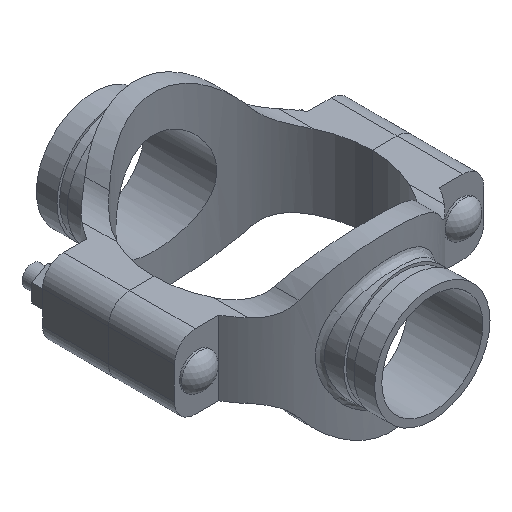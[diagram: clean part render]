
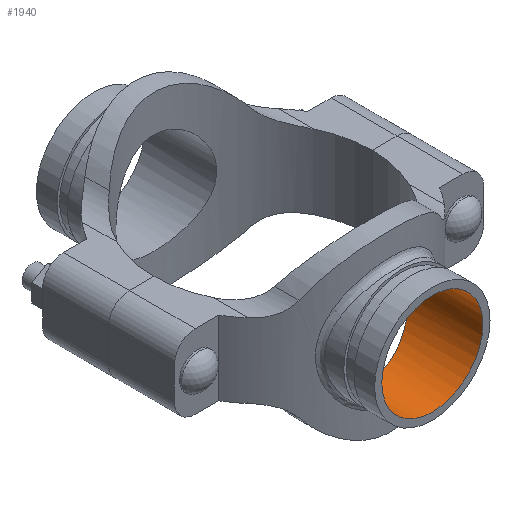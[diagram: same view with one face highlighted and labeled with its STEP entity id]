
A CAD part, isometric view. The second image highlights one B-rep face of the part: STEP entity #1940.
In plain terms, the highlighted cylindrical face has radius 38.894 mm (diameter 77.787 mm), a full revolution.
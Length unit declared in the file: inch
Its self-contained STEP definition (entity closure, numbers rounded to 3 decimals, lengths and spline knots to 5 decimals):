
#48=B_SPLINE_CURVE_WITH_KNOTS('',3,(#3908,#3909,#3910,#3911,#3912,#3913,
#3914,#3915,#3916,#3917,#3918,#3919,#3920,#3921,#3922,#3923,#3924,#3925,
#3926,#3927,#3928,#3929,#3930,#3931,#3932,#3933,#3934,#3935,#3936,#3937,
#3938,#3939,#3940,#3941,#3942,#3943,#3944,#3945,#3946,#3947,#3948,#3949,
#3950,#3951,#3952,#3953,#3954,#3955,#3956,#3957,#3958,#3959,#3960,#3961,
#3962,#3963,#3964,#3965,#3966,#3967,#3968,#3969,#3970,#3971,#3972,#3973),
 .UNSPECIFIED.,.T.,.F.,(4,2,2,2,2,2,2,2,2,2,2,2,2,2,2,2,2,2,2,2,2,2,2,2,
2,2,2,2,2,2,2,2,4),(0.,0.74578,1.49156,2.23734,
2.98312,3.72747,4.47183,5.21618,5.96054,
6.70489,7.44924,8.1936,8.93795,9.68373,
10.42951,11.17529,11.92107,12.66685,13.41263,
14.15841,14.90419,15.64855,16.3929,17.13726,
17.88161,18.62596,19.37032,20.11467,20.85903,
21.60481,22.35059,23.09637,23.84215),
 .UNSPECIFIED.);
#91=CYLINDRICAL_SURFACE('',#2173,1.53125);
#206=FACE_OUTER_BOUND('',#326,.T.);
#326=EDGE_LOOP('',(#1556,#1557,#1558,#1559));
#474=LINE('',#3907,#620);
#620=VECTOR('',#2628,1.53125);
#720=CIRCLE('',#2174,1.53125);
#881=VERTEX_POINT('',#3904);
#882=VERTEX_POINT('',#3906);
#1120=EDGE_CURVE('',#881,#881,#720,.T.);
#1121=EDGE_CURVE('',#881,#882,#474,.T.);
#1122=EDGE_CURVE('',#882,#882,#48,.T.);
#1556=ORIENTED_EDGE('',*,*,#1120,.F.);
#1557=ORIENTED_EDGE('',*,*,#1121,.T.);
#1558=ORIENTED_EDGE('',*,*,#1122,.F.);
#1559=ORIENTED_EDGE('',*,*,#1121,.F.);
#1940=ADVANCED_FACE('',(#206),#91,.F.);
#2173=AXIS2_PLACEMENT_3D('',#3903,#2624,#2625);
#2174=AXIS2_PLACEMENT_3D('',#3905,#2626,#2627);
#2624=DIRECTION('center_axis',(0.,-1.,0.));
#2625=DIRECTION('ref_axis',(-1.,0.,0.));
#2626=DIRECTION('center_axis',(0.,-1.,0.));
#2627=DIRECTION('ref_axis',(-1.,0.,0.));
#2628=DIRECTION('',(0.,-1.,0.));
#3903=CARTESIAN_POINT('Origin',(0.,5.13,0.));
#3904=CARTESIAN_POINT('',(1.53125,5.13,0.));
#3905=CARTESIAN_POINT('Origin',(0.,5.13,0.));
#3906=CARTESIAN_POINT('',(1.53125,2.93733,0.));
#3907=CARTESIAN_POINT('',(1.53125,5.13,0.));
#3908=CARTESIAN_POINT('Ctrl Pts',(1.53125,2.93733,0.));
#3909=CARTESIAN_POINT('Ctrl Pts',(1.53125,2.93733,-0.09787));
#3910=CARTESIAN_POINT('Ctrl Pts',(1.52172,2.94237,-0.1985));
#3911=CARTESIAN_POINT('Ctrl Pts',(1.48221,2.96246,-0.39759));
#3912=CARTESIAN_POINT('Ctrl Pts',(1.45225,2.9775,-0.49606));
#3913=CARTESIAN_POINT('Ctrl Pts',(1.37371,3.01454,-0.68412));
#3914=CARTESIAN_POINT('Ctrl Pts',(1.32507,3.03653,-0.77388));
#3915=CARTESIAN_POINT('Ctrl Pts',(1.21321,3.08293,-0.93959));
#3916=CARTESIAN_POINT('Ctrl Pts',(1.14998,3.10729,-1.01553));
#3917=CARTESIAN_POINT('Ctrl Pts',(1.01566,3.15375,-1.14985));
#3918=CARTESIAN_POINT('Ctrl Pts',(0.93978,3.17755,-1.21307));
#3919=CARTESIAN_POINT('Ctrl Pts',(0.77405,3.22194,-1.32498));
#3920=CARTESIAN_POINT('Ctrl Pts',(0.68419,3.24248,-1.37369));
#3921=CARTESIAN_POINT('Ctrl Pts',(0.49594,3.27656,-1.4523));
#3922=CARTESIAN_POINT('Ctrl Pts',(0.39737,3.2901,-1.48227));
#3923=CARTESIAN_POINT('Ctrl Pts',(0.19825,3.30807,-1.52175));
#3924=CARTESIAN_POINT('Ctrl Pts',(0.09768,3.3125,-1.53125));
#3925=CARTESIAN_POINT('Ctrl Pts',(-0.09768,3.3125,-1.53125));
#3926=CARTESIAN_POINT('Ctrl Pts',(-0.19825,3.30807,-1.52175));
#3927=CARTESIAN_POINT('Ctrl Pts',(-0.39737,3.2901,-1.48227));
#3928=CARTESIAN_POINT('Ctrl Pts',(-0.49594,3.27656,-1.4523));
#3929=CARTESIAN_POINT('Ctrl Pts',(-0.68419,3.24248,-1.37369));
#3930=CARTESIAN_POINT('Ctrl Pts',(-0.77405,3.22194,-1.32498));
#3931=CARTESIAN_POINT('Ctrl Pts',(-0.93978,3.17755,-1.21307));
#3932=CARTESIAN_POINT('Ctrl Pts',(-1.01566,3.15375,-1.14985));
#3933=CARTESIAN_POINT('Ctrl Pts',(-1.14998,3.10729,-1.01553));
#3934=CARTESIAN_POINT('Ctrl Pts',(-1.21321,3.08293,-0.93959));
#3935=CARTESIAN_POINT('Ctrl Pts',(-1.32507,3.03653,-0.77388));
#3936=CARTESIAN_POINT('Ctrl Pts',(-1.37371,3.01454,-0.68412));
#3937=CARTESIAN_POINT('Ctrl Pts',(-1.45225,2.9775,-0.49606));
#3938=CARTESIAN_POINT('Ctrl Pts',(-1.48221,2.96246,-0.39759));
#3939=CARTESIAN_POINT('Ctrl Pts',(-1.52172,2.94237,-0.1985));
#3940=CARTESIAN_POINT('Ctrl Pts',(-1.53125,2.93733,-0.09787));
#3941=CARTESIAN_POINT('Ctrl Pts',(-1.53125,2.93733,0.09787));
#3942=CARTESIAN_POINT('Ctrl Pts',(-1.52172,2.94237,0.1985));
#3943=CARTESIAN_POINT('Ctrl Pts',(-1.48221,2.96246,0.39759));
#3944=CARTESIAN_POINT('Ctrl Pts',(-1.45225,2.9775,0.49606));
#3945=CARTESIAN_POINT('Ctrl Pts',(-1.37371,3.01454,0.68412));
#3946=CARTESIAN_POINT('Ctrl Pts',(-1.32507,3.03653,0.77388));
#3947=CARTESIAN_POINT('Ctrl Pts',(-1.21321,3.08293,0.93959));
#3948=CARTESIAN_POINT('Ctrl Pts',(-1.14998,3.10729,1.01553));
#3949=CARTESIAN_POINT('Ctrl Pts',(-1.01566,3.15375,1.14985));
#3950=CARTESIAN_POINT('Ctrl Pts',(-0.93978,3.17755,1.21307));
#3951=CARTESIAN_POINT('Ctrl Pts',(-0.77405,3.22194,1.32498));
#3952=CARTESIAN_POINT('Ctrl Pts',(-0.68419,3.24248,1.37369));
#3953=CARTESIAN_POINT('Ctrl Pts',(-0.49594,3.27656,1.4523));
#3954=CARTESIAN_POINT('Ctrl Pts',(-0.39737,3.2901,1.48227));
#3955=CARTESIAN_POINT('Ctrl Pts',(-0.19825,3.30807,1.52175));
#3956=CARTESIAN_POINT('Ctrl Pts',(-0.09768,3.3125,1.53125));
#3957=CARTESIAN_POINT('Ctrl Pts',(0.09768,3.3125,1.53125));
#3958=CARTESIAN_POINT('Ctrl Pts',(0.19825,3.30807,1.52175));
#3959=CARTESIAN_POINT('Ctrl Pts',(0.39737,3.2901,1.48227));
#3960=CARTESIAN_POINT('Ctrl Pts',(0.49594,3.27656,1.4523));
#3961=CARTESIAN_POINT('Ctrl Pts',(0.68419,3.24248,1.37369));
#3962=CARTESIAN_POINT('Ctrl Pts',(0.77405,3.22194,1.32498));
#3963=CARTESIAN_POINT('Ctrl Pts',(0.93978,3.17755,1.21307));
#3964=CARTESIAN_POINT('Ctrl Pts',(1.01566,3.15375,1.14985));
#3965=CARTESIAN_POINT('Ctrl Pts',(1.14998,3.10729,1.01553));
#3966=CARTESIAN_POINT('Ctrl Pts',(1.21321,3.08293,0.93959));
#3967=CARTESIAN_POINT('Ctrl Pts',(1.32507,3.03653,0.77388));
#3968=CARTESIAN_POINT('Ctrl Pts',(1.37371,3.01454,0.68412));
#3969=CARTESIAN_POINT('Ctrl Pts',(1.45225,2.9775,0.49606));
#3970=CARTESIAN_POINT('Ctrl Pts',(1.48221,2.96246,0.39759));
#3971=CARTESIAN_POINT('Ctrl Pts',(1.52172,2.94237,0.1985));
#3972=CARTESIAN_POINT('Ctrl Pts',(1.53125,2.93733,0.09787));
#3973=CARTESIAN_POINT('Ctrl Pts',(1.53125,2.93733,0.));
